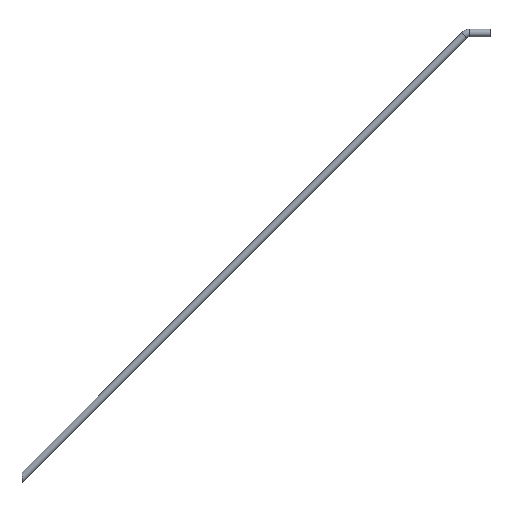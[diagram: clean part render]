
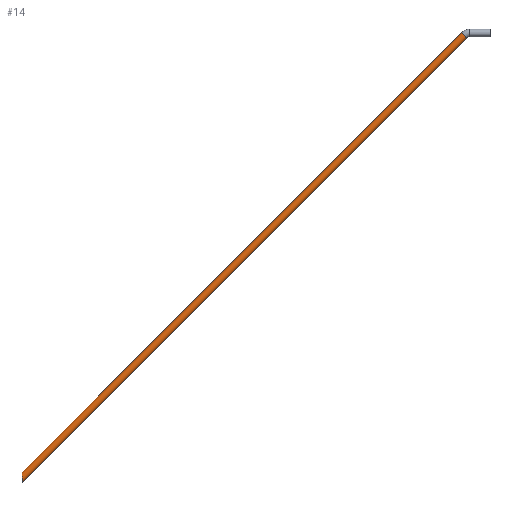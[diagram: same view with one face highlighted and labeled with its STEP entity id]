
A CAD part, front view. The second image highlights one B-rep face of the part: STEP entity #14.
In plain terms, the highlighted cylindrical face has radius 13.45 mm (diameter 26.9 mm), a partial arc.
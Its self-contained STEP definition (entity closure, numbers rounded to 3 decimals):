
#6 = CARTESIAN_POINT ( 'NONE',  ( 6773.996, 3575., 4786.867 ) ) ;
#14 = ADVANCED_FACE ( 'NONE', ( #72 ), #350, .T. ) ;
#17 = ORIENTED_EDGE ( 'NONE', *, *, #158, .T. ) ;
#28 = DIRECTION ( 'NONE',  ( -0.707, 0., -0.707 ) ) ;
#34 = DIRECTION ( 'NONE',  ( -0.707, 0., 0.707 ) ) ;
#40 = AXIS2_PLACEMENT_3D ( 'NONE', #370, #364, #82 ) ;
#46 = ORIENTED_EDGE ( 'NONE', *, *, #221, .T. ) ;
#49 = CARTESIAN_POINT ( 'NONE',  ( 5222.905, 3575., 3235.776 ) ) ;
#72 = FACE_OUTER_BOUND ( 'NONE', #289, .T. ) ;
#82 = DIRECTION ( 'NONE',  ( -0.707, 0., 0.707 ) ) ;
#97 =( BOUNDED_CURVE ( )  B_SPLINE_CURVE ( 3, ( #303, #211, #116, #117 ),
 .UNSPECIFIED., .F., .F. ) 
 B_SPLINE_CURVE_WITH_KNOTS ( ( 4, 4 ),
 ( 3.142, 6.283 ),
 .UNSPECIFIED. ) 
 CURVE ( )  GEOMETRIC_REPRESENTATION_ITEM ( )  RATIONAL_B_SPLINE_CURVE ( ( 1., 0.333, 0.333, 1. ) ) 
 REPRESENTATION_ITEM ( '' )  );
#98 = LINE ( 'NONE', #344, #401 ) ;
#116 = CARTESIAN_POINT ( 'NONE',  ( 5222.905, 3548.1, 3197.734 ) ) ;
#117 = CARTESIAN_POINT ( 'NONE',  ( 5222.905, 3575., 3197.734 ) ) ;
#140 = LINE ( 'NONE', #6, #161 ) ;
#158 = EDGE_CURVE ( 'NONE', #177, #282, #140, .T. ) ;
#161 = VECTOR ( 'NONE', #231, 1000. ) ;
#177 = VERTEX_POINT ( 'NONE', #363 ) ;
#195 = AXIS2_PLACEMENT_3D ( 'NONE', #315, #216, #34 ) ;
#211 = CARTESIAN_POINT ( 'NONE',  ( 5222.905, 3548.1, 3235.776 ) ) ;
#216 = DIRECTION ( 'NONE',  ( -0.707, 0., -0.707 ) ) ;
#221 = EDGE_CURVE ( 'NONE', #304, #177, #356, .T. ) ;
#231 = DIRECTION ( 'NONE',  ( -0.707, 0., -0.707 ) ) ;
#263 = EDGE_CURVE ( 'NONE', #282, #334, #97, .T. ) ;
#282 = VERTEX_POINT ( 'NONE', #49 ) ;
#289 = EDGE_LOOP ( 'NONE', ( #406, #46, #17, #371 ) ) ;
#303 = CARTESIAN_POINT ( 'NONE',  ( 5222.905, 3575., 3235.776 ) ) ;
#304 = VERTEX_POINT ( 'NONE', #396 ) ;
#305 = CARTESIAN_POINT ( 'NONE',  ( 5222.905, 3575., 3197.734 ) ) ;
#315 = CARTESIAN_POINT ( 'NONE',  ( 6783.506, 3575., 4777.356 ) ) ;
#334 = VERTEX_POINT ( 'NONE', #305 ) ;
#344 = CARTESIAN_POINT ( 'NONE',  ( 6793.017, 3575., 4767.846 ) ) ;
#350 = CYLINDRICAL_SURFACE ( 'NONE', #195, 13.45 ) ;
#356 = CIRCLE ( 'NONE', #40, 13.45 ) ;
#363 = CARTESIAN_POINT ( 'NONE',  ( 6773.996, 3575., 4786.867 ) ) ;
#364 = DIRECTION ( 'NONE',  ( -0.707, 0., -0.707 ) ) ;
#370 = CARTESIAN_POINT ( 'NONE',  ( 6783.506, 3575., 4777.356 ) ) ;
#371 = ORIENTED_EDGE ( 'NONE', *, *, #263, .T. ) ;
#396 = CARTESIAN_POINT ( 'NONE',  ( 6793.017, 3575., 4767.846 ) ) ;
#397 = EDGE_CURVE ( 'NONE', #304, #334, #98, .T. ) ;
#401 = VECTOR ( 'NONE', #28, 1000. ) ;
#406 = ORIENTED_EDGE ( 'NONE', *, *, #397, .F. ) ;
